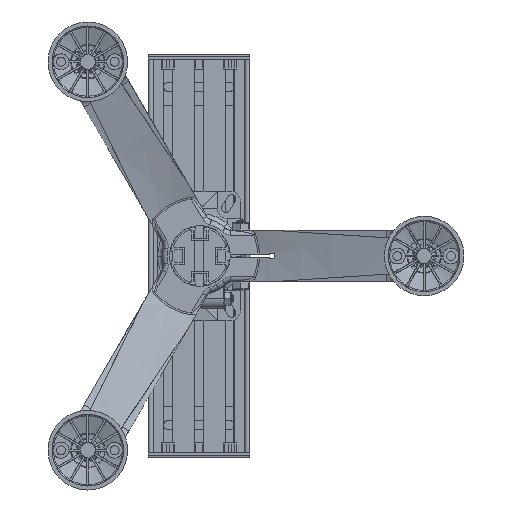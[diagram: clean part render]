
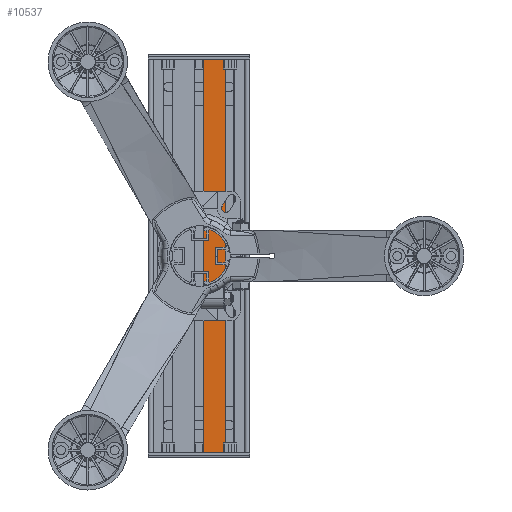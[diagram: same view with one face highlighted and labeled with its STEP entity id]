
A CAD part, front view. The second image highlights one B-rep face of the part: STEP entity #10537.
In plain terms, the highlighted planar face has unit normal (0, -1, 0).
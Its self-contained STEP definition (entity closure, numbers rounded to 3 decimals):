
#2427 = CARTESIAN_POINT ( 'NONE',  ( -399.536, 323.017, 415.021 ) ) ;
#3066 = CARTESIAN_POINT ( 'NONE',  ( -421.036, 323.017, 415.021 ) ) ;
#5585 = CARTESIAN_POINT ( 'NONE',  ( -399.536, 323.017, 19.021 ) ) ;
#10537 = ADVANCED_FACE ( 'NONE', ( #61541 ), #61525, .F. ) ;
#10929 = EDGE_CURVE ( 'NONE', #28054, #28164, #63784, .T. ) ;
#11671 = EDGE_CURVE ( 'NONE', #28113, #27764, #67060, .T. ) ;
#12587 = ORIENTED_EDGE ( 'NONE', *, *, #25433, .F. ) ;
#23235 = ORIENTED_EDGE ( 'NONE', *, *, #27321, .T. ) ;
#23385 = ORIENTED_EDGE ( 'NONE', *, *, #11671, .T. ) ;
#25433 = EDGE_CURVE ( 'NONE', #28113, #28054, #43313, .T. ) ;
#27321 = EDGE_CURVE ( 'NONE', #27764, #28164, #73588, .T. ) ;
#27764 = VERTEX_POINT ( 'NONE', #74765 ) ;
#28054 = VERTEX_POINT ( 'NONE', #2427 ) ;
#28113 = VERTEX_POINT ( 'NONE', #3066 ) ;
#28164 = VERTEX_POINT ( 'NONE', #5585 ) ;
#29500 = ORIENTED_EDGE ( 'NONE', *, *, #10929, .F. ) ;
#43310 = DIRECTION ( 'NONE',  ( 1., 0., 0. ) ) ;
#43311 = VECTOR ( 'NONE', #43310, 1000. ) ;
#43312 = CARTESIAN_POINT ( 'NONE',  ( -399.536, 323.017, 415.021 ) ) ;
#43313 = LINE ( 'NONE', #43312, #43311 ) ;
#59134 = EDGE_LOOP ( 'NONE', ( #23235, #29500, #12587, #23385 ) ) ;
#61521 = DIRECTION ( 'NONE',  ( -1., 0., 0. ) ) ;
#61522 = DIRECTION ( 'NONE',  ( 0., 1., 0. ) ) ;
#61523 = CARTESIAN_POINT ( 'NONE',  ( -399.536, 323.017, 415.021 ) ) ;
#61524 = AXIS2_PLACEMENT_3D ( 'NONE', #61523, #61522, #61521 ) ;
#61525 = PLANE ( 'NONE',  #61524 ) ;
#61541 = FACE_OUTER_BOUND ( 'NONE', #59134, .T. ) ;
#63781 = DIRECTION ( 'NONE',  ( 0., 0., -1. ) ) ;
#63782 = VECTOR ( 'NONE', #63781, 1000. ) ;
#63783 = CARTESIAN_POINT ( 'NONE',  ( -399.536, 323.017, 415.021 ) ) ;
#63784 = LINE ( 'NONE', #63783, #63782 ) ;
#67057 = DIRECTION ( 'NONE',  ( 0., 0., -1. ) ) ;
#67058 = VECTOR ( 'NONE', #67057, 1000. ) ;
#67059 = CARTESIAN_POINT ( 'NONE',  ( -421.036, 323.017, 415.021 ) ) ;
#67060 = LINE ( 'NONE', #67059, #67058 ) ;
#73585 = DIRECTION ( 'NONE',  ( 1., 0., 0. ) ) ;
#73586 = VECTOR ( 'NONE', #73585, 1000. ) ;
#73587 = CARTESIAN_POINT ( 'NONE',  ( -399.536, 323.017, 19.021 ) ) ;
#73588 = LINE ( 'NONE', #73587, #73586 ) ;
#74765 = CARTESIAN_POINT ( 'NONE',  ( -421.036, 323.017, 19.021 ) ) ;
